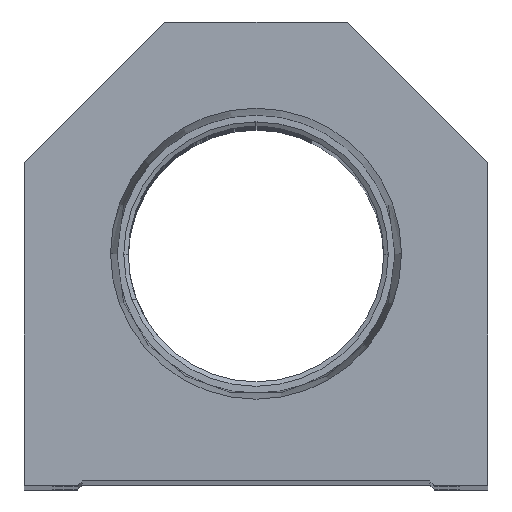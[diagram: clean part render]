
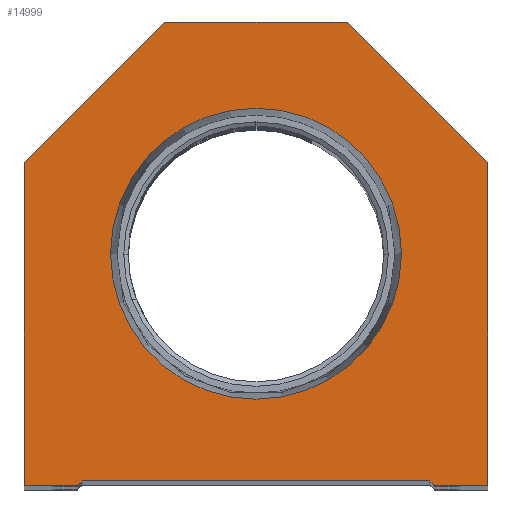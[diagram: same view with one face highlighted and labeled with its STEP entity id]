
A CAD part, top view. The second image highlights one B-rep face of the part: STEP entity #14999.
In plain terms, the highlighted planar face has unit normal (0, 0, 1).
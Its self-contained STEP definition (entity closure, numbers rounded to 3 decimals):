
#143 = DIRECTION ( 'NONE',  ( 0., 0., 1. ) ) ;
#288 = CARTESIAN_POINT ( 'NONE',  ( 25.4, 0., 0. ) ) ;
#295 = CARTESIAN_POINT ( 'NONE',  ( 0., 0., 0. ) ) ;
#520 = DIRECTION ( 'NONE',  ( 1., 0., 0. ) ) ;
#822 = EDGE_CURVE ( 'NONE', #4881, #8527, #7651, .T. ) ;
#882 = ORIENTED_EDGE ( 'NONE', *, *, #14531, .F. ) ;
#1005 = EDGE_CURVE ( 'NONE', #8527, #5674, #4398, .T. ) ;
#1008 = EDGE_CURVE ( 'NONE', #7421, #4881, #22042, .T. ) ;
#1269 = VERTEX_POINT ( 'NONE', #13407 ) ;
#1762 = EDGE_LOOP ( 'NONE', ( #10964, #882 ) ) ;
#1822 = CARTESIAN_POINT ( 'NONE',  ( 25.4, 35.4, 0. ) ) ;
#2125 = CARTESIAN_POINT ( 'NONE',  ( 19.55, 0., 0. ) ) ;
#2937 = CARTESIAN_POINT ( 'NONE',  ( -25.4, 0., 0. ) ) ;
#3668 = EDGE_CURVE ( 'NONE', #5164, #8965, #9358, .T. ) ;
#3864 = VECTOR ( 'NONE', #13437, 1000. ) ;
#4129 = DIRECTION ( 'NONE',  ( 0.707, 0.707, 0. ) ) ;
#4286 = CARTESIAN_POINT ( 'NONE',  ( -19.05, 0.5, 0. ) ) ;
#4398 = LINE ( 'NONE', #4286, #17731 ) ;
#4470 = DIRECTION ( 'NONE',  ( 0., 1., 0. ) ) ;
#4547 = VECTOR ( 'NONE', #5485, 1000. ) ;
#4881 = VERTEX_POINT ( 'NONE', #11114 ) ;
#5037 = ORIENTED_EDGE ( 'NONE', *, *, #20803, .T. ) ;
#5164 = VERTEX_POINT ( 'NONE', #23227 ) ;
#5244 = CARTESIAN_POINT ( 'NONE',  ( 9.775, 9.775, 0. ) ) ;
#5485 = DIRECTION ( 'NONE',  ( 0., -1., 0. ) ) ;
#5670 = ORIENTED_EDGE ( 'NONE', *, *, #3668, .T. ) ;
#5674 = VERTEX_POINT ( 'NONE', #16192 ) ;
#5956 = CIRCLE ( 'NONE', #19916, 15.947 ) ;
#6298 = ORIENTED_EDGE ( 'NONE', *, *, #1005, .T. ) ;
#6554 = EDGE_CURVE ( 'NONE', #17622, #14316, #22385, .T. ) ;
#6634 = VERTEX_POINT ( 'NONE', #8153 ) ;
#7421 = VERTEX_POINT ( 'NONE', #2937 ) ;
#7629 = LINE ( 'NONE', #7857, #19843 ) ;
#7651 = LINE ( 'NONE', #13026, #8523 ) ;
#7857 = CARTESIAN_POINT ( 'NONE',  ( -25.4, 35.4, 0. ) ) ;
#8153 = CARTESIAN_POINT ( 'NONE',  ( 15.947, 25.4, 0. ) ) ;
#8204 = ORIENTED_EDGE ( 'NONE', *, *, #1008, .T. ) ;
#8523 = VECTOR ( 'NONE', #4129, 1000. ) ;
#8527 = VERTEX_POINT ( 'NONE', #11247 ) ;
#8876 = DIRECTION ( 'NONE',  ( 0., 0., 1. ) ) ;
#8965 = VERTEX_POINT ( 'NONE', #9055 ) ;
#8990 = EDGE_CURVE ( 'NONE', #5674, #17622, #12058, .T. ) ;
#9055 = CARTESIAN_POINT ( 'NONE',  ( 10., 50.8, 0. ) ) ;
#9358 = LINE ( 'NONE', #1822, #13878 ) ;
#9371 = FACE_BOUND ( 'NONE', #1762, .T. ) ;
#9461 = CARTESIAN_POINT ( 'NONE',  ( 0., 25.4, 0. ) ) ;
#9837 = ORIENTED_EDGE ( 'NONE', *, *, #18572, .T. ) ;
#9860 = ORIENTED_EDGE ( 'NONE', *, *, #8990, .T. ) ;
#9871 = ORIENTED_EDGE ( 'NONE', *, *, #21208, .T. ) ;
#9900 = LINE ( 'NONE', #13307, #21087 ) ;
#10964 = ORIENTED_EDGE ( 'NONE', *, *, #19654, .F. ) ;
#11114 = CARTESIAN_POINT ( 'NONE',  ( -19.55, 0., 0. ) ) ;
#11138 = EDGE_CURVE ( 'NONE', #14316, #5164, #15133, .T. ) ;
#11239 = LINE ( 'NONE', #14507, #4547 ) ;
#11247 = CARTESIAN_POINT ( 'NONE',  ( -19.05, 0.5, 0. ) ) ;
#11776 = DIRECTION ( 'NONE',  ( 1., 0., 0. ) ) ;
#12058 = LINE ( 'NONE', #5244, #16511 ) ;
#12387 = CARTESIAN_POINT ( 'NONE',  ( 0., 25.4, 0. ) ) ;
#12995 = PLANE ( 'NONE',  #19501 ) ;
#13026 = CARTESIAN_POINT ( 'NONE',  ( -9.775, 9.775, 0. ) ) ;
#13135 = VERTEX_POINT ( 'NONE', #15037 ) ;
#13307 = CARTESIAN_POINT ( 'NONE',  ( 10., 50.8, 0. ) ) ;
#13407 = CARTESIAN_POINT ( 'NONE',  ( -15.947, 25.4, 0. ) ) ;
#13437 = DIRECTION ( 'NONE',  ( 1., 0., 0. ) ) ;
#13771 = ORIENTED_EDGE ( 'NONE', *, *, #6554, .T. ) ;
#13878 = VECTOR ( 'NONE', #20069, 1000. ) ;
#14236 = AXIS2_PLACEMENT_3D ( 'NONE', #12387, #8876, #19333 ) ;
#14316 = VERTEX_POINT ( 'NONE', #288 ) ;
#14507 = CARTESIAN_POINT ( 'NONE',  ( -25.4, 0., 0. ) ) ;
#14531 = EDGE_CURVE ( 'NONE', #1269, #6634, #5956, .T. ) ;
#14988 = CARTESIAN_POINT ( 'NONE',  ( -25.4, 35.4, 0. ) ) ;
#14999 = ADVANCED_FACE ( 'NONE', ( #9371, #18151 ), #12995, .T. ) ;
#15037 = CARTESIAN_POINT ( 'NONE',  ( -10., 50.8, 0. ) ) ;
#15133 = LINE ( 'NONE', #20570, #15214 ) ;
#15214 = VECTOR ( 'NONE', #4470, 1000. ) ;
#15924 = DIRECTION ( 'NONE',  ( 0.707, -0.707, 0. ) ) ;
#16192 = CARTESIAN_POINT ( 'NONE',  ( 19.05, 0.5, 0. ) ) ;
#16287 = CARTESIAN_POINT ( 'NONE',  ( -19.05, 0., 0. ) ) ;
#16511 = VECTOR ( 'NONE', #15924, 1000. ) ;
#16823 = DIRECTION ( 'NONE',  ( 1., 0., 0. ) ) ;
#17057 = VECTOR ( 'NONE', #11776, 1000. ) ;
#17419 = ORIENTED_EDGE ( 'NONE', *, *, #822, .T. ) ;
#17622 = VERTEX_POINT ( 'NONE', #2125 ) ;
#17731 = VECTOR ( 'NONE', #16823, 1000. ) ;
#18151 = FACE_OUTER_BOUND ( 'NONE', #22779, .T. ) ;
#18400 = DIRECTION ( 'NONE',  ( 0., 0., 1. ) ) ;
#18572 = EDGE_CURVE ( 'NONE', #13135, #22495, #7629, .T. ) ;
#18635 = DIRECTION ( 'NONE',  ( -0.707, -0.707, 0. ) ) ;
#19333 = DIRECTION ( 'NONE',  ( 1., 0., 0. ) ) ;
#19501 = AXIS2_PLACEMENT_3D ( 'NONE', #295, #18400, #520 ) ;
#19654 = EDGE_CURVE ( 'NONE', #6634, #1269, #21031, .T. ) ;
#19843 = VECTOR ( 'NONE', #18635, 1000. ) ;
#19916 = AXIS2_PLACEMENT_3D ( 'NONE', #9461, #143, #19941 ) ;
#19941 = DIRECTION ( 'NONE',  ( 1., 0., 0. ) ) ;
#20069 = DIRECTION ( 'NONE',  ( -0.707, 0.707, 0. ) ) ;
#20499 = CARTESIAN_POINT ( 'NONE',  ( 19.05, 0., 0. ) ) ;
#20570 = CARTESIAN_POINT ( 'NONE',  ( 25.4, 0., 0. ) ) ;
#20803 = EDGE_CURVE ( 'NONE', #22495, #7421, #11239, .T. ) ;
#21031 = CIRCLE ( 'NONE', #14236, 15.947 ) ;
#21063 = ORIENTED_EDGE ( 'NONE', *, *, #11138, .T. ) ;
#21087 = VECTOR ( 'NONE', #22167, 1000. ) ;
#21208 = EDGE_CURVE ( 'NONE', #8965, #13135, #9900, .T. ) ;
#22042 = LINE ( 'NONE', #16287, #3864 ) ;
#22167 = DIRECTION ( 'NONE',  ( -1., 0., 0. ) ) ;
#22385 = LINE ( 'NONE', #20499, #17057 ) ;
#22495 = VERTEX_POINT ( 'NONE', #14988 ) ;
#22779 = EDGE_LOOP ( 'NONE', ( #8204, #17419, #6298, #9860, #13771, #21063, #5670, #9871, #9837, #5037 ) ) ;
#23227 = CARTESIAN_POINT ( 'NONE',  ( 25.4, 35.4, 0. ) ) ;
